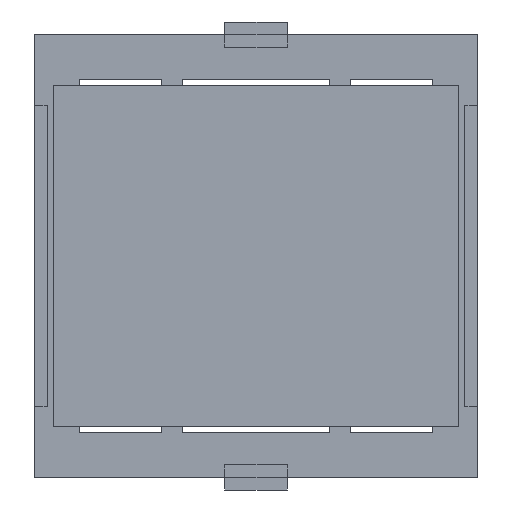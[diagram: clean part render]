
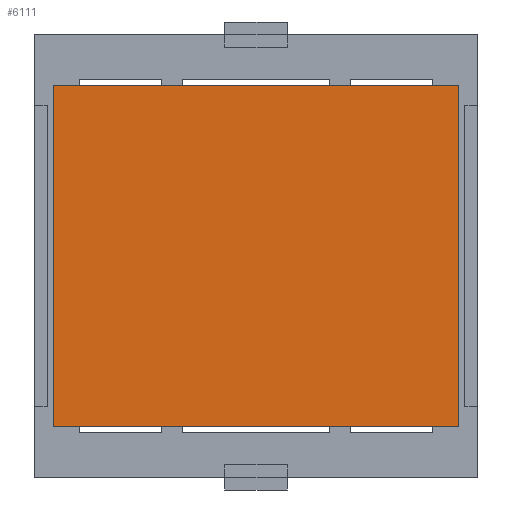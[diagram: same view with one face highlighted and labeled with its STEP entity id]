
A CAD part, front view. The second image highlights one B-rep face of the part: STEP entity #6111.
In plain terms, the highlighted planar face has unit normal (0, -1, 0).
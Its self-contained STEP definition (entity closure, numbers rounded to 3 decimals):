
#56 = LINE ( 'NONE', #892, #3184 ) ;
#139 = VECTOR ( 'NONE', #196, 1000. ) ;
#196 = DIRECTION ( 'NONE',  ( 1., 0., 0. ) ) ;
#309 = AXIS2_PLACEMENT_3D ( 'NONE', #5475, #617, #5449 ) ;
#312 = CARTESIAN_POINT ( 'NONE',  ( 16.129, -0.127, -13.589 ) ) ;
#617 = DIRECTION ( 'NONE',  ( 0., 1., 0. ) ) ;
#637 = ORIENTED_EDGE ( 'NONE', *, *, #1647, .F. ) ;
#753 = DIRECTION ( 'NONE',  ( 0., 0., 1. ) ) ;
#892 = CARTESIAN_POINT ( 'NONE',  ( -16.129, -0.127, -13.589 ) ) ;
#989 = EDGE_CURVE ( 'NONE', #2843, #1307, #4009, .T. ) ;
#1092 = CARTESIAN_POINT ( 'NONE',  ( -16.129, -0.127, 13.589 ) ) ;
#1307 = VERTEX_POINT ( 'NONE', #5247 ) ;
#1431 = ORIENTED_EDGE ( 'NONE', *, *, #989, .F. ) ;
#1647 = EDGE_CURVE ( 'NONE', #1307, #2244, #3933, .T. ) ;
#1714 = EDGE_CURVE ( 'NONE', #4866, #2843, #3157, .T. ) ;
#2244 = VERTEX_POINT ( 'NONE', #312 ) ;
#2627 = CARTESIAN_POINT ( 'NONE',  ( -16.129, -0.127, -13.589 ) ) ;
#2843 = VERTEX_POINT ( 'NONE', #2923 ) ;
#2875 = DIRECTION ( 'NONE',  ( -1., 0., 0. ) ) ;
#2923 = CARTESIAN_POINT ( 'NONE',  ( -16.129, -0.127, 13.589 ) ) ;
#3157 = LINE ( 'NONE', #2627, #3554 ) ;
#3184 = VECTOR ( 'NONE', #2875, 1000. ) ;
#3463 = DIRECTION ( 'NONE',  ( 0., 0., -1. ) ) ;
#3554 = VECTOR ( 'NONE', #753, 1000. ) ;
#3559 = PLANE ( 'NONE',  #309 ) ;
#3933 = LINE ( 'NONE', #5854, #5967 ) ;
#4009 = LINE ( 'NONE', #1092, #139 ) ;
#4469 = EDGE_CURVE ( 'NONE', #2244, #4866, #56, .T. ) ;
#4866 = VERTEX_POINT ( 'NONE', #5608 ) ;
#5247 = CARTESIAN_POINT ( 'NONE',  ( 16.129, -0.127, 13.589 ) ) ;
#5359 = EDGE_LOOP ( 'NONE', ( #6060, #5478, #637, #1431 ) ) ;
#5449 = DIRECTION ( 'NONE',  ( 0., 0., 1. ) ) ;
#5475 = CARTESIAN_POINT ( 'NONE',  ( -16.129, -0.127, 13.589 ) ) ;
#5478 = ORIENTED_EDGE ( 'NONE', *, *, #4469, .F. ) ;
#5608 = CARTESIAN_POINT ( 'NONE',  ( -16.129, -0.127, -13.589 ) ) ;
#5854 = CARTESIAN_POINT ( 'NONE',  ( 16.129, -0.127, -13.589 ) ) ;
#5958 = FACE_OUTER_BOUND ( 'NONE', #5359, .T. ) ;
#5967 = VECTOR ( 'NONE', #3463, 1000. ) ;
#6060 = ORIENTED_EDGE ( 'NONE', *, *, #1714, .F. ) ;
#6111 = ADVANCED_FACE ( 'NONE', ( #5958 ), #3559, .F. ) ;
